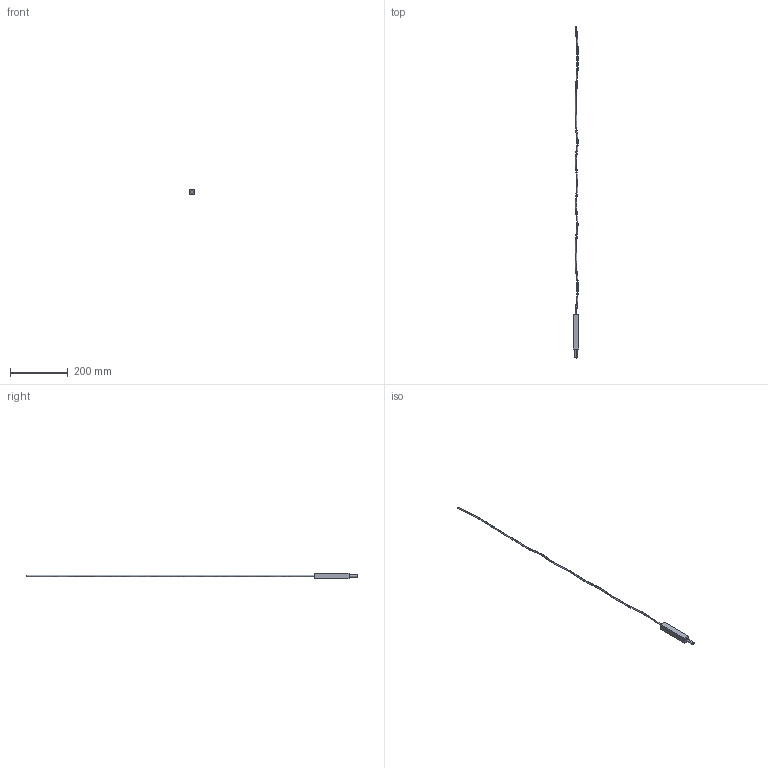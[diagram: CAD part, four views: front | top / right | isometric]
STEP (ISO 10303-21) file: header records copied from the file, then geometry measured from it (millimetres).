
FILE_DESCRIPTION (( 'STEP AP214' ), '1' );
FILE_NAME ('3D_LINESCAPES_VERTICAL_START.STEP', '2018-04-09T11:06:50', ( 'Utente' ), ( '' ), 'SwSTEP 2.0', 'SolidWorks 2016', '' );
FILE_SCHEMA (( 'AUTOMOTIVE_DESIGN' ));
Length unit declared in the file: millimetre
Products named in the file (4): CAVO4.8CENTRAL; TEC; ESTRUSO; 3D_LINESCAPES_VERTICAL_START
Assembly tree (3 placements, depth 2):
  3D_LINESCAPES_VERTICAL_START
    ESTRUSO
    TEC
    CAVO4.8CENTRAL
Bounding box: 20 x 1146 x 20 mm (x, y, z)
Volume: 68479.2 mm3; surface area: 26605 mm2
Topology: 3 solids, 3 shells, 14 faces, 24 edges, 16 vertices
Faces by surface type: plane 10, cylinder 2, bspline 2
Entity records: 1338 total; most frequent: CARTESIAN_POINT 920, DIRECTION 66, ORIENTED_EDGE 48, AXIS2_PLACEMENT_3D 26, EDGE_CURVE 24, VERTEX_POINT 16, ADVANCED_FACE 14, LINE 14
